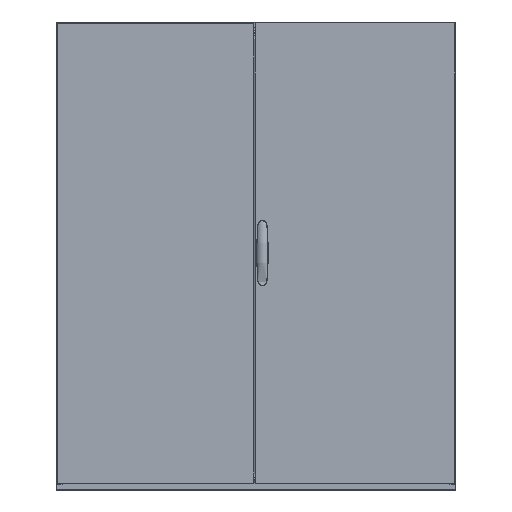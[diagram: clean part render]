
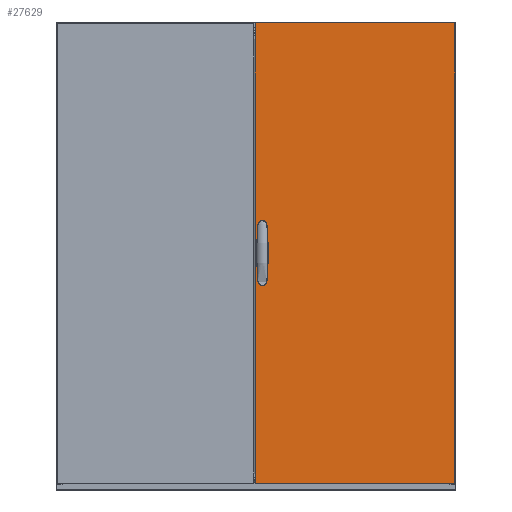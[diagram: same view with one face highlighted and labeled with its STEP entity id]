
A CAD part, top view. The second image highlights one B-rep face of the part: STEP entity #27629.
In plain terms, the highlighted planar face has unit normal (0, 0, 1) as drawn and (0, 0, -1) by its records, which use the part's own axes.
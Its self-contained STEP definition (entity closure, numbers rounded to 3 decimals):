
#359=CIRCLE('',#31197,2.6);
#360=CIRCLE('',#31198,2.6);
#2608=ORIENTED_EDGE('',*,*,#9610,.T.);
#2609=ORIENTED_EDGE('',*,*,#9611,.T.);
#2610=ORIENTED_EDGE('',*,*,#9612,.T.);
#2611=ORIENTED_EDGE('',*,*,#9613,.T.);
#2612=ORIENTED_EDGE('',*,*,#9614,.T.);
#2613=ORIENTED_EDGE('',*,*,#9615,.T.);
#2614=ORIENTED_EDGE('',*,*,#9616,.T.);
#2615=ORIENTED_EDGE('',*,*,#9617,.T.);
#2616=ORIENTED_EDGE('',*,*,#9618,.T.);
#2617=ORIENTED_EDGE('',*,*,#9619,.T.);
#2618=ORIENTED_EDGE('',*,*,#9620,.T.);
#2619=ORIENTED_EDGE('',*,*,#9621,.T.);
#2620=ORIENTED_EDGE('',*,*,#9622,.T.);
#2621=ORIENTED_EDGE('',*,*,#9623,.T.);
#2622=ORIENTED_EDGE('',*,*,#9624,.T.);
#2623=ORIENTED_EDGE('',*,*,#9625,.T.);
#2624=ORIENTED_EDGE('',*,*,#9626,.T.);
#2625=ORIENTED_EDGE('',*,*,#9627,.F.);
#2626=ORIENTED_EDGE('',*,*,#9628,.F.);
#2627=ORIENTED_EDGE('',*,*,#9629,.T.);
#2628=ORIENTED_EDGE('',*,*,#9630,.T.);
#2629=ORIENTED_EDGE('',*,*,#9631,.T.);
#9610=EDGE_CURVE('',#13270,#13271,#16071,.T.);
#9611=EDGE_CURVE('',#13271,#13272,#16072,.T.);
#9612=EDGE_CURVE('',#13272,#13273,#16073,.T.);
#9613=EDGE_CURVE('',#13273,#13274,#16074,.T.);
#9614=EDGE_CURVE('',#13274,#13275,#16075,.T.);
#9615=EDGE_CURVE('',#13275,#13276,#16076,.T.);
#9616=EDGE_CURVE('',#13276,#13277,#16077,.T.);
#9617=EDGE_CURVE('',#13277,#13278,#16078,.T.);
#9618=EDGE_CURVE('',#13278,#13279,#16079,.T.);
#9619=EDGE_CURVE('',#13279,#13280,#16080,.T.);
#9620=EDGE_CURVE('',#13280,#13281,#16081,.T.);
#9621=EDGE_CURVE('',#13281,#13282,#16082,.T.);
#9622=EDGE_CURVE('',#13282,#13283,#16083,.T.);
#9623=EDGE_CURVE('',#13283,#13284,#16084,.T.);
#9624=EDGE_CURVE('',#13284,#13285,#16085,.T.);
#9625=EDGE_CURVE('',#13285,#13270,#16086,.T.);
#9626=EDGE_CURVE('',#13286,#13287,#16087,.T.);
#9627=EDGE_CURVE('',#13288,#13287,#16088,.T.);
#9628=EDGE_CURVE('',#13289,#13288,#16089,.T.);
#9629=EDGE_CURVE('',#13289,#13286,#16090,.T.);
#9630=EDGE_CURVE('',#13290,#13290,#359,.T.);
#9631=EDGE_CURVE('',#13291,#13291,#360,.T.);
#13270=VERTEX_POINT('',#42044);
#13271=VERTEX_POINT('',#42045);
#13272=VERTEX_POINT('',#42047);
#13273=VERTEX_POINT('',#42049);
#13274=VERTEX_POINT('',#42051);
#13275=VERTEX_POINT('',#42053);
#13276=VERTEX_POINT('',#42055);
#13277=VERTEX_POINT('',#42057);
#13278=VERTEX_POINT('',#42059);
#13279=VERTEX_POINT('',#42061);
#13280=VERTEX_POINT('',#42063);
#13281=VERTEX_POINT('',#42065);
#13282=VERTEX_POINT('',#42067);
#13283=VERTEX_POINT('',#42069);
#13284=VERTEX_POINT('',#42071);
#13285=VERTEX_POINT('',#42073);
#13286=VERTEX_POINT('',#42076);
#13287=VERTEX_POINT('',#42077);
#13288=VERTEX_POINT('',#42079);
#13289=VERTEX_POINT('',#42081);
#13290=VERTEX_POINT('',#42084);
#13291=VERTEX_POINT('',#42086);
#16071=LINE('',#42043,#19584);
#16072=LINE('',#42046,#19585);
#16073=LINE('',#42048,#19586);
#16074=LINE('',#42050,#19587);
#16075=LINE('',#42052,#19588);
#16076=LINE('',#42054,#19589);
#16077=LINE('',#42056,#19590);
#16078=LINE('',#42058,#19591);
#16079=LINE('',#42060,#19592);
#16080=LINE('',#42062,#19593);
#16081=LINE('',#42064,#19594);
#16082=LINE('',#42066,#19595);
#16083=LINE('',#42068,#19596);
#16084=LINE('',#42070,#19597);
#16085=LINE('',#42072,#19598);
#16086=LINE('',#42074,#19599);
#16087=LINE('',#42075,#19600);
#16088=LINE('',#42078,#19601);
#16089=LINE('',#42080,#19602);
#16090=LINE('',#42082,#19603);
#19584=VECTOR('',#34408,1000.);
#19585=VECTOR('',#34409,1000.);
#19586=VECTOR('',#34410,1000.);
#19587=VECTOR('',#34411,1000.);
#19588=VECTOR('',#34412,1000.);
#19589=VECTOR('',#34413,1000.);
#19590=VECTOR('',#34414,1000.);
#19591=VECTOR('',#34415,1000.);
#19592=VECTOR('',#34416,1000.);
#19593=VECTOR('',#34417,1000.);
#19594=VECTOR('',#34418,1000.);
#19595=VECTOR('',#34419,1000.);
#19596=VECTOR('',#34420,1000.);
#19597=VECTOR('',#34421,1000.);
#19598=VECTOR('',#34422,1000.);
#19599=VECTOR('',#34423,1000.);
#19600=VECTOR('',#34424,1000.);
#19601=VECTOR('',#34425,1000.);
#19602=VECTOR('',#34426,1000.);
#19603=VECTOR('',#34427,1000.);
#22829=EDGE_LOOP('',(#2608,#2609,#2610,#2611,#2612,#2613,#2614,#2615,#2616,
#2617,#2618,#2619,#2620,#2621,#2622,#2623));
#22830=EDGE_LOOP('',(#2624,#2625,#2626,#2627));
#22831=EDGE_LOOP('',(#2628));
#22832=EDGE_LOOP('',(#2629));
#24627=FACE_BOUND('',#22829,.T.);
#24628=FACE_BOUND('',#22830,.T.);
#24629=FACE_BOUND('',#22831,.T.);
#24630=FACE_BOUND('',#22832,.T.);
#26257=PLANE('',#31196);
#27629=ADVANCED_FACE('',(#24627,#24628,#24629,#24630),#26257,.F.);
#31196=AXIS2_PLACEMENT_3D('',#42042,#34406,#34407);
#31197=AXIS2_PLACEMENT_3D('',#42083,#34428,#34429);
#31198=AXIS2_PLACEMENT_3D('',#42085,#34430,#34431);
#34406=DIRECTION('',(0.,0.,1.));
#34407=DIRECTION('',(1.,0.,0.));
#34408=DIRECTION('',(0.,-1.,0.));
#34409=DIRECTION('',(0.342,-0.94,0.));
#34410=DIRECTION('',(1.,0.,0.));
#34411=DIRECTION('',(0.,1.,0.));
#34412=DIRECTION('',(1.,0.,0.));
#34413=DIRECTION('',(0.,-1.,0.));
#34414=DIRECTION('',(1.,0.,0.));
#34415=DIRECTION('',(0.342,0.94,0.));
#34416=DIRECTION('',(0.,1.,0.));
#34417=DIRECTION('',(-0.342,0.94,0.));
#34418=DIRECTION('',(-1.,0.,0.));
#34419=DIRECTION('',(0.,-1.,0.));
#34420=DIRECTION('',(-1.,0.,0.));
#34421=DIRECTION('',(0.,1.,0.));
#34422=DIRECTION('',(-1.,0.,0.));
#34423=DIRECTION('',(-0.342,-0.94,0.));
#34424=DIRECTION('',(-1.,0.,0.));
#34425=DIRECTION('',(0.,-1.,0.));
#34426=DIRECTION('',(-1.,0.,0.));
#34427=DIRECTION('',(0.,-1.,0.));
#34428=DIRECTION('',(0.,0.,1.));
#34429=DIRECTION('',(1.,0.,0.));
#34430=DIRECTION('',(0.,0.,1.));
#34431=DIRECTION('',(1.,0.,0.));
#42042=CARTESIAN_POINT('',(299.,1382.,-16.8));
#42043=CARTESIAN_POINT('',(265.45,756.256,-16.8));
#42044=CARTESIAN_POINT('',(265.45,756.256,-16.8));
#42045=CARTESIAN_POINT('',(265.45,625.744,-16.8));
#42046=CARTESIAN_POINT('',(265.45,625.744,-16.8));
#42047=CARTESIAN_POINT('',(267.45,620.25,-16.8));
#42048=CARTESIAN_POINT('',(267.45,620.25,-16.8));
#42049=CARTESIAN_POINT('',(272.7,620.25,-16.8));
#42050=CARTESIAN_POINT('',(272.7,620.25,-16.8));
#42051=CARTESIAN_POINT('',(272.7,628.,-16.8));
#42052=CARTESIAN_POINT('',(272.7,628.,-16.8));
#42053=CARTESIAN_POINT('',(283.7,628.,-16.8));
#42054=CARTESIAN_POINT('',(283.7,628.,-16.8));
#42055=CARTESIAN_POINT('',(283.7,620.25,-16.8));
#42056=CARTESIAN_POINT('',(283.7,620.25,-16.8));
#42057=CARTESIAN_POINT('',(288.95,620.25,-16.8));
#42058=CARTESIAN_POINT('',(288.95,620.25,-16.8));
#42059=CARTESIAN_POINT('',(290.95,625.744,-16.8));
#42060=CARTESIAN_POINT('',(290.95,625.744,-16.8));
#42061=CARTESIAN_POINT('',(290.95,756.256,-16.8));
#42062=CARTESIAN_POINT('',(290.95,756.256,-16.8));
#42063=CARTESIAN_POINT('',(288.95,761.75,-16.8));
#42064=CARTESIAN_POINT('',(288.95,761.75,-16.8));
#42065=CARTESIAN_POINT('',(283.7,761.75,-16.8));
#42066=CARTESIAN_POINT('',(283.7,761.75,-16.8));
#42067=CARTESIAN_POINT('',(283.7,754.,-16.8));
#42068=CARTESIAN_POINT('',(283.7,754.,-16.8));
#42069=CARTESIAN_POINT('',(272.7,754.,-16.8));
#42070=CARTESIAN_POINT('',(272.7,754.,-16.8));
#42071=CARTESIAN_POINT('',(272.7,761.75,-16.8));
#42072=CARTESIAN_POINT('',(272.7,761.75,-16.8));
#42073=CARTESIAN_POINT('',(267.45,761.75,-16.8));
#42074=CARTESIAN_POINT('',(267.45,761.75,-16.8));
#42075=CARTESIAN_POINT('',(299.,0.,-16.8));
#42076=CARTESIAN_POINT('',(299.,0.,-16.8));
#42077=CARTESIAN_POINT('',(-299.,0.,-16.8));
#42078=CARTESIAN_POINT('',(-299.,1382.,-16.8));
#42079=CARTESIAN_POINT('',(-299.,1382.,-16.8));
#42080=CARTESIAN_POINT('',(299.,1382.,-16.8));
#42081=CARTESIAN_POINT('',(299.,1382.,-16.8));
#42082=CARTESIAN_POINT('',(299.,1382.,-16.8));
#42083=CARTESIAN_POINT('',(278.2,761.,-16.8));
#42084=CARTESIAN_POINT('',(280.8,761.,-16.8));
#42085=CARTESIAN_POINT('',(278.2,621.,-16.8));
#42086=CARTESIAN_POINT('',(280.8,621.,-16.8));
